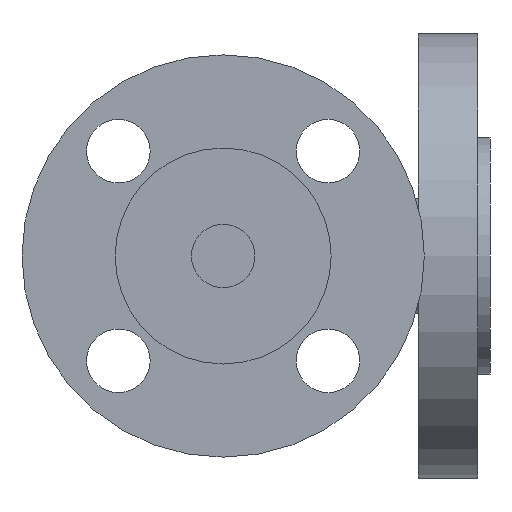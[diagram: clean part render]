
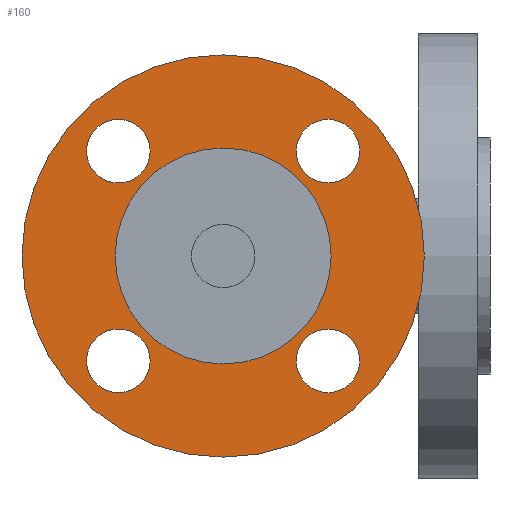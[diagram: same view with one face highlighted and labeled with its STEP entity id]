
A CAD part, front view. The second image highlights one B-rep face of the part: STEP entity #160.
In plain terms, the highlighted planar face has unit normal (0, -1, 0).
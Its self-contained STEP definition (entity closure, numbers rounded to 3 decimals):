
#160=ADVANCED_FACE('',(#796,#797,#798,#799,#800,#801),#795,.T.);
#795=PLANE('',#2720);
#796=FACE_OUTER_BOUND('',#2721,.T.);
#797=FACE_BOUND('',#2722,.T.);
#798=FACE_BOUND('',#2723,.T.);
#799=FACE_BOUND('',#2724,.T.);
#800=FACE_BOUND('',#2725,.T.);
#801=FACE_BOUND('',#2726,.T.);
#2717=CARTESIAN_POINT('',(-92.272,-92.,57.5));
#2718=DIRECTION('',(0.,-1.,0.));
#2719=DIRECTION('',(0.,0.,-1.));
#2720=AXIS2_PLACEMENT_3D('',#2717,#2718,#2719);
#2721=EDGE_LOOP('',(#4833,#4834));
#2722=EDGE_LOOP('',(#4835,#4836,#4837));
#2723=EDGE_LOOP('',(#4838,#4839));
#2724=EDGE_LOOP('',(#4840,#4841));
#2725=EDGE_LOOP('',(#4842,#4843));
#2726=EDGE_LOOP('',(#4844,#4845,#4846));
#4833=ORIENTED_EDGE('',*,*,#5699,.F.);
#4834=ORIENTED_EDGE('',*,*,#5700,.F.);
#4835=ORIENTED_EDGE('',*,*,#5701,.F.);
#4836=ORIENTED_EDGE('',*,*,#5702,.F.);
#4837=ORIENTED_EDGE('',*,*,#5703,.F.);
#4838=ORIENTED_EDGE('',*,*,#5704,.F.);
#4839=ORIENTED_EDGE('',*,*,#5705,.F.);
#4840=ORIENTED_EDGE('',*,*,#5706,.F.);
#4841=ORIENTED_EDGE('',*,*,#5707,.F.);
#4842=ORIENTED_EDGE('',*,*,#5708,.T.);
#4843=ORIENTED_EDGE('',*,*,#5709,.T.);
#4844=ORIENTED_EDGE('',*,*,#5710,.F.);
#4845=ORIENTED_EDGE('',*,*,#5711,.F.);
#4846=ORIENTED_EDGE('',*,*,#5712,.F.);
#5699=EDGE_CURVE('',#6999,#7000,#7001,.T.);
#5700=EDGE_CURVE('',#7000,#6999,#7007,.T.);
#5701=EDGE_CURVE('',#7013,#7014,#7015,.T.);
#5702=EDGE_CURVE('',#7021,#7013,#7022,.T.);
#5703=EDGE_CURVE('',#7014,#7021,#7028,.T.);
#5704=EDGE_CURVE('',#7034,#7035,#7036,.T.);
#5705=EDGE_CURVE('',#7035,#7034,#7042,.T.);
#5706=EDGE_CURVE('',#7048,#7049,#7050,.T.);
#5707=EDGE_CURVE('',#7049,#7048,#7056,.T.);
#5708=EDGE_CURVE('',#7062,#7063,#7064,.T.);
#5709=EDGE_CURVE('',#7063,#7062,#7070,.T.);
#5710=EDGE_CURVE('',#7076,#7077,#7078,.T.);
#5711=EDGE_CURVE('',#7084,#7076,#7085,.T.);
#5712=EDGE_CURVE('',#7077,#7084,#7091,.T.);
#6999=VERTEX_POINT('',#10007);
#7000=VERTEX_POINT('',#10008);
#7001=CIRCLE('',#10012,47.5);
#7007=CIRCLE('',#10016,47.5);
#7013=VERTEX_POINT('',#10017);
#7014=VERTEX_POINT('',#10018);
#7015=CIRCLE('',#10022,7.5);
#7021=VERTEX_POINT('',#10023);
#7022=CIRCLE('',#10027,7.5);
#7028=CIRCLE('',#10031,7.5);
#7034=VERTEX_POINT('',#10032);
#7035=VERTEX_POINT('',#10033);
#7036=CIRCLE('',#10037,7.5);
#7042=CIRCLE('',#10041,7.5);
#7048=VERTEX_POINT('',#10042);
#7049=VERTEX_POINT('',#10043);
#7050=CIRCLE('',#10047,7.5);
#7056=CIRCLE('',#10051,7.5);
#7062=VERTEX_POINT('',#10052);
#7063=VERTEX_POINT('',#10053);
#7064=CIRCLE('',#10057,25.5);
#7070=CIRCLE('',#10061,25.5);
#7076=VERTEX_POINT('',#10062);
#7077=VERTEX_POINT('',#10063);
#7078=CIRCLE('',#10067,7.5);
#7084=VERTEX_POINT('',#10068);
#7085=CIRCLE('',#10072,7.5);
#7091=CIRCLE('',#10076,7.5);
#10007=CARTESIAN_POINT('',(0.,-92.,-47.5));
#10008=CARTESIAN_POINT('',(0.,-92.,47.5));
#10009=CARTESIAN_POINT('',(0.,-92.,0.));
#10010=DIRECTION('',(0.,1.,0.));
#10011=DIRECTION('',(0.,0.,1.));
#10012=AXIS2_PLACEMENT_3D('',#10009,#10010,#10011);
#10013=CARTESIAN_POINT('',(0.,-92.,0.));
#10014=DIRECTION('',(0.,1.,0.));
#10015=DIRECTION('',(0.,0.,1.));
#10016=AXIS2_PLACEMENT_3D('',#10013,#10014,#10015);
#10017=CARTESIAN_POINT('',(32.249,-92.,-24.75));
#10018=CARTESIAN_POINT('',(24.749,-92.,-17.249));
#10019=CARTESIAN_POINT('',(24.749,-92.,-24.749));
#10020=DIRECTION('',(0.,-1.,0.));
#10021=DIRECTION('',(0.,0.,1.));
#10022=AXIS2_PLACEMENT_3D('',#10019,#10020,#10021);
#10023=CARTESIAN_POINT('',(17.249,-92.,-24.749));
#10024=CARTESIAN_POINT('',(24.749,-92.,-24.749));
#10025=DIRECTION('',(0.,-1.,0.));
#10026=DIRECTION('',(0.,0.,1.));
#10027=AXIS2_PLACEMENT_3D('',#10024,#10025,#10026);
#10028=CARTESIAN_POINT('',(24.749,-92.,-24.749));
#10029=DIRECTION('',(0.,-1.,0.));
#10030=DIRECTION('',(0.,0.,1.));
#10031=AXIS2_PLACEMENT_3D('',#10028,#10029,#10030);
#10032=CARTESIAN_POINT('',(32.249,-92.,24.749));
#10033=CARTESIAN_POINT('',(17.249,-92.,24.749));
#10034=CARTESIAN_POINT('',(24.749,-92.,24.749));
#10035=DIRECTION('',(0.,-1.,0.));
#10036=DIRECTION('',(-1.,0.,0.));
#10037=AXIS2_PLACEMENT_3D('',#10034,#10035,#10036);
#10038=CARTESIAN_POINT('',(24.749,-92.,24.749));
#10039=DIRECTION('',(0.,-1.,0.));
#10040=DIRECTION('',(-1.,0.,0.));
#10041=AXIS2_PLACEMENT_3D('',#10038,#10039,#10040);
#10042=CARTESIAN_POINT('',(-24.749,-92.,32.249));
#10043=CARTESIAN_POINT('',(-24.749,-92.,17.249));
#10044=CARTESIAN_POINT('',(-24.749,-92.,24.749));
#10045=DIRECTION('',(0.,-1.,0.));
#10046=DIRECTION('',(0.,0.,-1.));
#10047=AXIS2_PLACEMENT_3D('',#10044,#10045,#10046);
#10048=CARTESIAN_POINT('',(-24.749,-92.,24.749));
#10049=DIRECTION('',(0.,-1.,0.));
#10050=DIRECTION('',(0.,0.,-1.));
#10051=AXIS2_PLACEMENT_3D('',#10048,#10049,#10050);
#10052=CARTESIAN_POINT('',(0.,-92.,25.5));
#10053=CARTESIAN_POINT('',(0.,-92.,-25.5));
#10054=CARTESIAN_POINT('',(0.,-92.,0.));
#10055=DIRECTION('',(0.,1.,0.));
#10056=DIRECTION('',(0.,0.,1.));
#10057=AXIS2_PLACEMENT_3D('',#10054,#10055,#10056);
#10058=CARTESIAN_POINT('',(0.,-92.,0.));
#10059=DIRECTION('',(0.,1.,0.));
#10060=DIRECTION('',(0.,0.,1.));
#10061=AXIS2_PLACEMENT_3D('',#10058,#10059,#10060);
#10062=CARTESIAN_POINT('',(-24.749,-92.,-32.249));
#10063=CARTESIAN_POINT('',(-17.249,-92.,-24.749));
#10064=CARTESIAN_POINT('',(-24.749,-92.,-24.749));
#10065=DIRECTION('',(0.,-1.,0.));
#10066=DIRECTION('',(1.,0.,0.));
#10067=AXIS2_PLACEMENT_3D('',#10064,#10065,#10066);
#10068=CARTESIAN_POINT('',(-24.75,-92.,-17.249));
#10069=CARTESIAN_POINT('',(-24.749,-92.,-24.749));
#10070=DIRECTION('',(0.,-1.,0.));
#10071=DIRECTION('',(1.,0.,0.));
#10072=AXIS2_PLACEMENT_3D('',#10069,#10070,#10071);
#10073=CARTESIAN_POINT('',(-24.749,-92.,-24.749));
#10074=DIRECTION('',(0.,-1.,0.));
#10075=DIRECTION('',(1.,0.,0.));
#10076=AXIS2_PLACEMENT_3D('',#10073,#10074,#10075);
